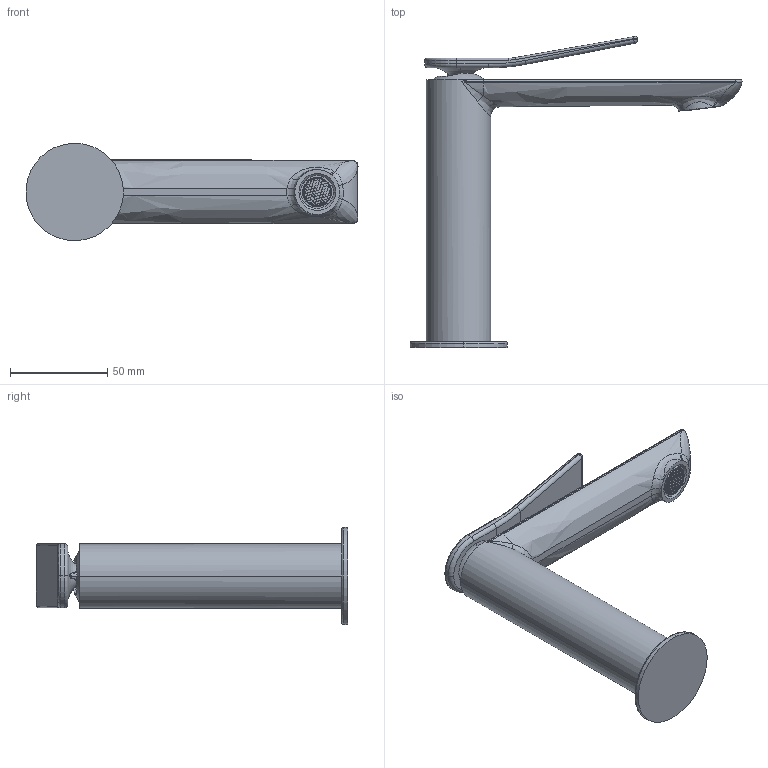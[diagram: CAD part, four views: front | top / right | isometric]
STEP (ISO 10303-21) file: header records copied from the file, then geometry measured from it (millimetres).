
FILE_DESCRIPTION (( 'STEP AP214' ), '1' );
FILE_NAME ('85301110 x architetti.STEP', '2026-02-23T12:56:07', ( '' ), ( '' ), 'SwSTEP 2.0', 'SolidWorks 2020', '' );
FILE_SCHEMA (( 'AUTOMOTIVE_DESIGN' ));
Length unit declared in the file: millimetre
Products named in the file (1): 85301110 x architetti
Bounding box: 170.37 x 159.6 x 49.89 mm (x, y, z)
Surface area: 47232 mm2 (no closed solid volume)
Topology: 0 solids, 10 shells, 1301 faces, 3161 edges, 1891 vertices
Faces by surface type: plane 633, cylinder 429, bspline 199, torus 17, cone 15, sphere 8
Entity records: 66303 total; most frequent: CARTESIAN_POINT 25064, ORIENTED_EDGE 6220, DIRECTION 4734, EDGE_CURVE 3157, VERTEX_POINT 1891, LINE 1714, VECTOR 1714, AXIS2_PLACEMENT_3D 1510
